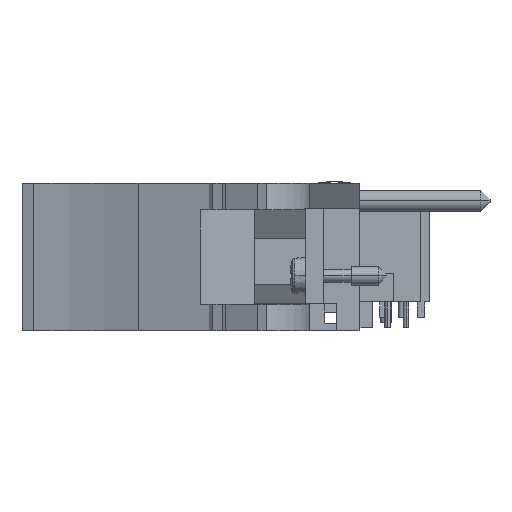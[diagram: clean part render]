
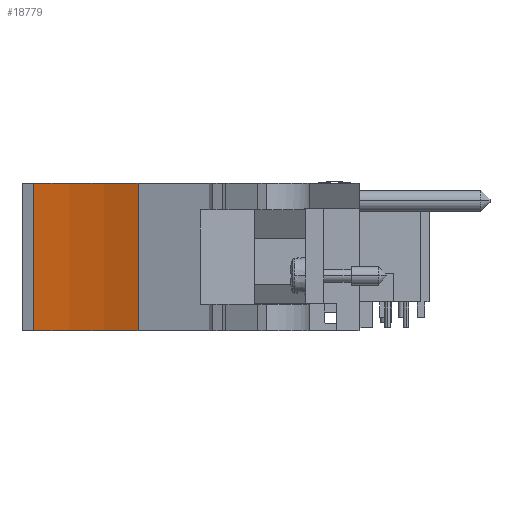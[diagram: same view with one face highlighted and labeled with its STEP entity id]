
A CAD part, front view. The second image highlights one B-rep face of the part: STEP entity #18779.
In plain terms, the highlighted cylindrical face has radius 51.46 mm (diameter 102.919 mm), a partial arc.
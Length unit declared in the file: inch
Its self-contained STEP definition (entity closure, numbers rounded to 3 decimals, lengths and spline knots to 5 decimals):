
#3962=DIRECTION('',(0.,0.,1.));
#3963=VECTOR('',#3962,0.788);
#3964=CARTESIAN_POINT('',(-1.09548,-4.12619,
-0.09201));
#3965=LINE('',#3964,#3963);
#4023=CARTESIAN_POINT('',(-1.97678,-5.95043,-0.09201));
#4024=DIRECTION('',(0.,0.,1.));
#4025=DIRECTION('',(0.435,0.9,0.));
#4026=AXIS2_PLACEMENT_3D('',#4023,#4024,#4025);
#4337=CARTESIAN_POINT('',(-1.97678,-5.95043,0.69599));
#4338=DIRECTION('',(0.,0.,1.));
#4339=DIRECTION('',(0.435,0.9,0.));
#4340=AXIS2_PLACEMENT_3D('',#4337,#4338,#4339);
#4581=DIRECTION('',(0.,0.,1.));
#4582=VECTOR('',#4581,0.788);
#4583=CARTESIAN_POINT('',(-1.65345,-3.95043,-0.09201));
#4584=LINE('',#4583,#4582);
#12294=CARTESIAN_POINT('',(-1.09548,-4.12619,
-0.09201));
#12295=CARTESIAN_POINT('',(-1.65345,-3.95043,-0.09201));
#12296=VERTEX_POINT('',#12294);
#12297=VERTEX_POINT('',#12295);
#12298=CARTESIAN_POINT('',(-1.09548,-4.12619,
0.69599));
#12299=CARTESIAN_POINT('',(-1.65345,-3.95043,0.69599));
#12300=VERTEX_POINT('',#12298);
#12301=VERTEX_POINT('',#12299);
#18765=CARTESIAN_POINT('',(-1.97678,-5.95043,0.69599));
#18766=DIRECTION('',(0.,0.,1.));
#18767=DIRECTION('',(0.,1.,0.));
#18768=AXIS2_PLACEMENT_3D('',#18765,#18766,#18767);
#18769=CYLINDRICAL_SURFACE('',#18768,2.02597);
#18771=ORIENTED_EDGE('',*,*,#18770,.T.);
#18773=ORIENTED_EDGE('',*,*,#18772,.T.);
#18775=ORIENTED_EDGE('',*,*,#18774,.F.);
#18776=ORIENTED_EDGE('',*,*,#18748,.F.);
#18777=EDGE_LOOP('',(#18771,#18773,#18775,#18776));
#18778=FACE_OUTER_BOUND('',#18777,.F.);
#18779=ADVANCED_FACE('',(#18778),#18769,.F.);
#4027=CIRCLE('',#4026,2.02597);
#4341=CIRCLE('',#4340,2.02597);
#18748=EDGE_CURVE('',#12296,#12300,#3965,.T.);
#18770=EDGE_CURVE('',#12296,#12297,#4027,.T.);
#18772=EDGE_CURVE('',#12297,#12301,#4584,.T.);
#18774=EDGE_CURVE('',#12300,#12301,#4341,.T.);
